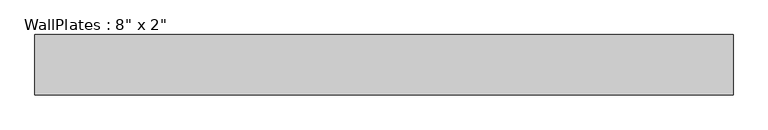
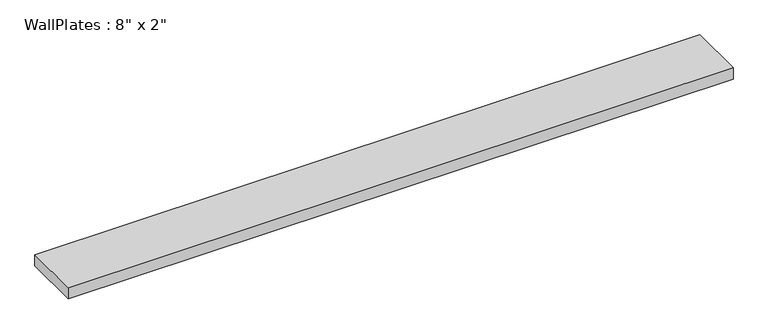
"""IFC4 building model written with IfcOpenShell, lengths in millimetres: beam geometry."""

from ifc_helpers import new_model, si_unit, frame, origin, place, context, project, spatial, polyline, outline, extrude, source, transform, mapped, element, save


def beam_a9ff3a63(model_context):
    return source(origin(), model_context, "Body", "SweptSolid", [
        extrude(outline(polyline([(-1066.805, -92.075), (-1066.805, 92.075), (1066.805, 92.075), (1066.805, -92.075), (-1066.805, -92.075)])), frame((0.0, 0.0, -19.05), z_axis=(0.0, 0.0, 1.0), x_axis=(1.0, 0.0, 0.0)), (0.0, 0.0, 1.0), 38.1),
    ])


if __name__ == "__main__":
    model = new_model("IFC4")
    model_context = context("Model", 3, world=origin())
    ifc_project = project(units=[si_unit("LENGTHUNIT", "METRE", prefix="MILLI")], contexts=[model_context])
    site = spatial("IfcSite", under=ifc_project)
    building = spatial("IfcBuilding", under=site)
    placement = place(None, origin())
    beam_shape = beam_a9ff3a63(model_context)
    element("IfcBeam", 1, ObjectType="WallPlates : 8\" x 2\"", at=placement, inside=building, context=model_context, shape_type="MappedRepresentation", body=[
        mapped(beam_shape, transform((0.0, 0.0, 0.0), x_axis=(1.0, 0.0, 0.0), y_axis=(0.0, 1.0, 0.0), z_axis=(0.0, 0.0, 1.0))),
    ])
    save(model, "model.ifc")
